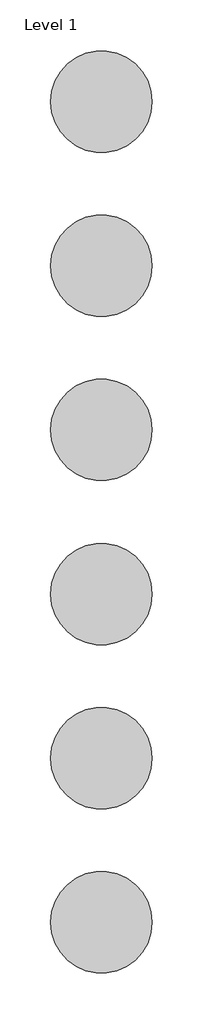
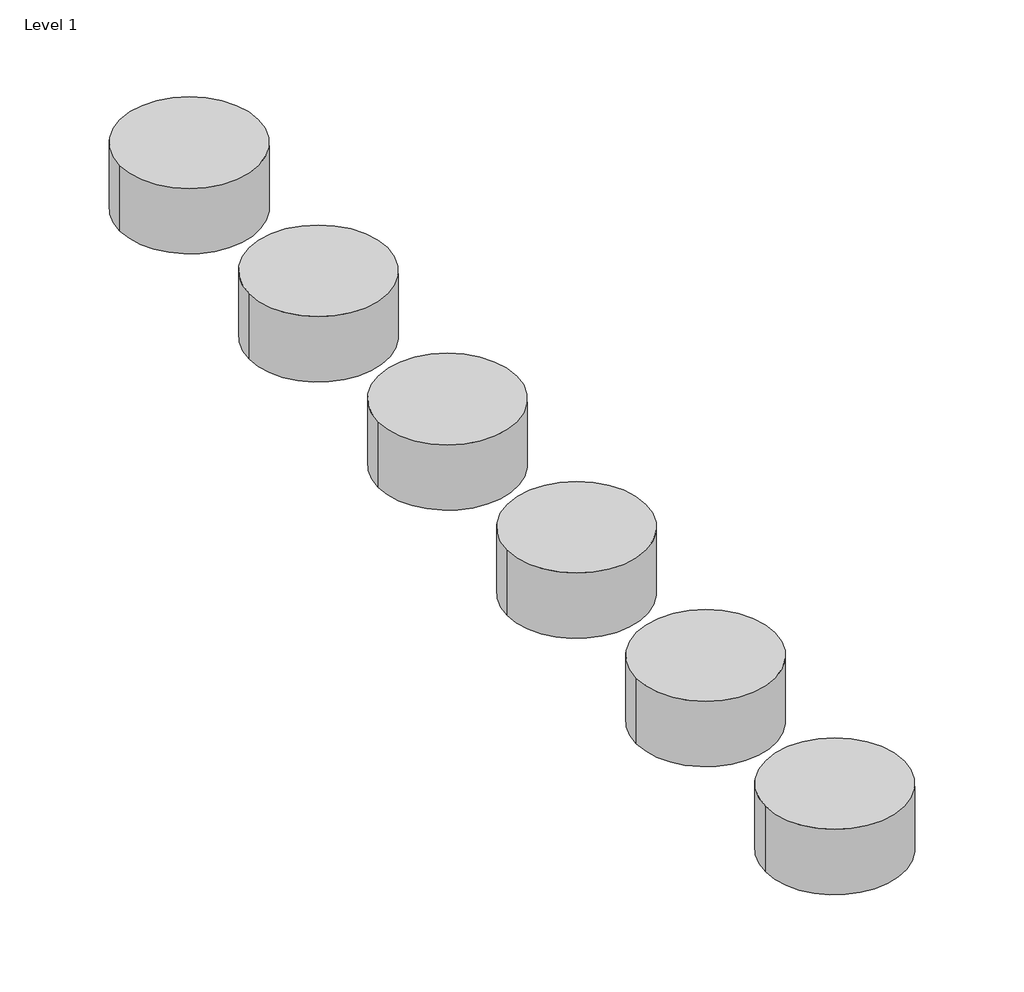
# One storey, incomplete: 6 proxies.
"""IFC4 building model written with IfcOpenShell, lengths in millimetres."""

from ifc_helpers import new_model, si_unit, origin, place, context, project, spatial, transform, mapped, element, save
from components import materialmodel_materialmodel_02e69005

model = new_model("IFC4")

# Units and contexts
model_context = context("Model", 3, world=origin())
ifc_project = project(units=[si_unit("LENGTHUNIT", "METRE", prefix="MILLI")], contexts=[model_context])

# Site, building, storey
site = spatial("IfcSite", under=ifc_project)
building = spatial("IfcBuilding", under=site)
storey = spatial("IfcBuildingStorey", under=building, Name="Level 1", Elevation=0.0)

# Proxies
placement = place(None, origin())
materialmodel_materialmodel_shape = materialmodel_materialmodel_02e69005(model_context)
element("IfcBuildingElementProxy", 1, Name="MaterialModel : MaterialModel", ObjectType="MaterialModel : MaterialModel", at=placement, inside=storey, context=model_context, shape_type="MappedRepresentation", body=[
    mapped(materialmodel_materialmodel_shape, transform((-3303.2309081, 6870.1197955, 0.0), x_axis=(1.0, 0.0, 0.0), y_axis=(0.0, 1.0, 0.0), z_axis=(0.0, 0.0, 1.0))),
])
element("IfcBuildingElementProxy", 2, Name="MaterialModel : MaterialModel", ObjectType="MaterialModel : MaterialModel", at=placement, inside=storey, context=model_context, shape_type="MappedRepresentation", body=[
    mapped(materialmodel_materialmodel_shape, transform((-3303.2309081, 6708.6768181, 0.0), x_axis=(1.0, 0.0, 0.0), y_axis=(0.0, 1.0, 0.0), z_axis=(0.0, 0.0, 1.0))),
])
element("IfcBuildingElementProxy", 3, Name="MaterialModel : MaterialModel", ObjectType="MaterialModel : MaterialModel", at=placement, inside=storey, context=model_context, shape_type="MappedRepresentation", body=[
    mapped(materialmodel_materialmodel_shape, transform((-3303.2309081, 6547.2338407, 0.0), x_axis=(1.0, 0.0, 0.0), y_axis=(0.0, 1.0, 0.0), z_axis=(0.0, 0.0, 1.0))),
])
element("IfcBuildingElementProxy", 4, Name="MaterialModel : MaterialModel", ObjectType="MaterialModel : MaterialModel", at=placement, inside=storey, context=model_context, shape_type="MappedRepresentation", body=[
    mapped(materialmodel_materialmodel_shape, transform((-3303.2309081, 6385.7908634, 0.0), x_axis=(1.0, 0.0, 0.0), y_axis=(0.0, 1.0, 0.0), z_axis=(0.0, 0.0, 1.0))),
])
element("IfcBuildingElementProxy", 5, Name="MaterialModel : MaterialModel", ObjectType="MaterialModel : MaterialModel", at=placement, inside=storey, context=model_context, shape_type="MappedRepresentation", body=[
    mapped(materialmodel_materialmodel_shape, transform((-3303.2309081, 6224.347886, 0.0), x_axis=(1.0, 0.0, 0.0), y_axis=(0.0, 1.0, 0.0), z_axis=(0.0, 0.0, 1.0))),
])
element("IfcBuildingElementProxy", 6, Name="MaterialModel : MaterialModel", ObjectType="MaterialModel : MaterialModel", at=placement, inside=storey, context=model_context, shape_type="MappedRepresentation", body=[
    mapped(materialmodel_materialmodel_shape, transform((-3303.2309081, 6062.9049086, 0.0), x_axis=(1.0, 0.0, 0.0), y_axis=(0.0, 1.0, 0.0), z_axis=(0.0, 0.0, 1.0))),
])

save(model, "model.ifc")
